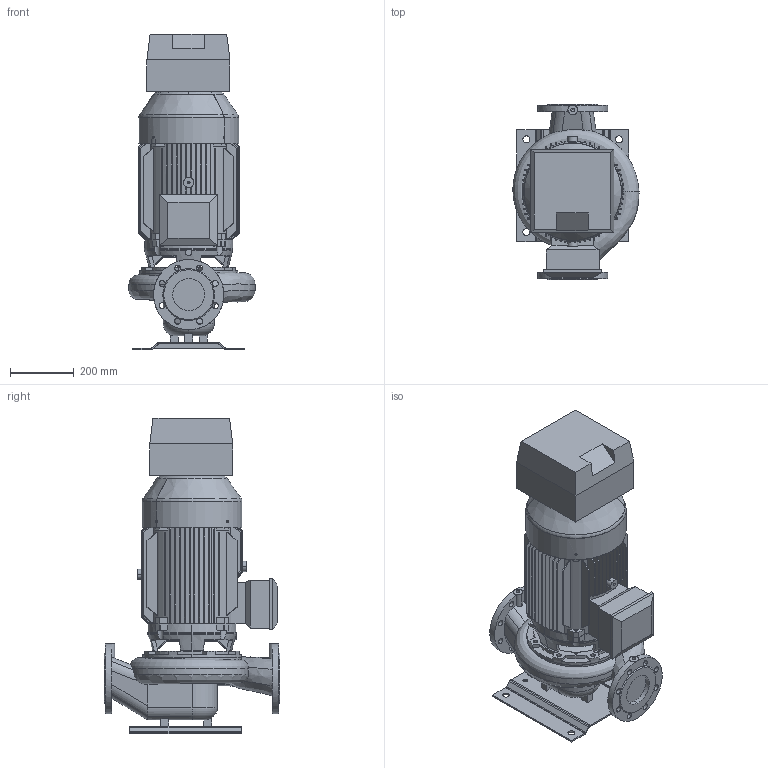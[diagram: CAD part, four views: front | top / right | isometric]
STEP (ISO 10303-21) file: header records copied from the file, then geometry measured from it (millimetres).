
FILE_DESCRIPTION(('STEP AP214'),'1');
FILE_NAME('export.stp','2018-08-08T11:42:33',(' '),(' '),'Spatial InterOp 3D',' ',' ');
FILE_SCHEMA(('AUTOMOTIVE_DESIGN { 1 0 10303 214 1 1 1 1 }'));
Length unit declared in the file: millimetre
Products named in the file (12): W_AKN1002NC110; V_TLAKN100127; V_PPAKN100; P100496; P100495; P100342; V_MKP-165-E1_N26; R200574; R200573; R200587; R200960; NC_Size2
Assembly tree (12 placements, depth 3):
  W_AKN1002NC110
    V_TLAKN100127
    V_PPAKN100
    P100496
      P100495  x2
      P100342
    V_MKP-165-E1_N26
      R200574
      R200573
      R200587
      R200960
    NC_Size2
Bounding box: 395.3 x 550 x 988 mm (x, y, z)
Volume: 37196165.2 mm3; surface area: 3595819.7 mm2
Topology: 10 solids, 10 shells, 1837 faces, 5299 edges, 3461 vertices
Faces by surface type: plane 1214, cylinder 355, cone 156, torus 72, bspline 40
Entity records: 83859 total; most frequent: CARTESIAN_POINT 18611, ORIENTED_EDGE 10554, DIRECTION 9233, EDGE_CURVE 5277, LINE 3463, VECTOR 3463, VERTEX_POINT 3453, AXIS2_PLACEMENT_3D 2885
